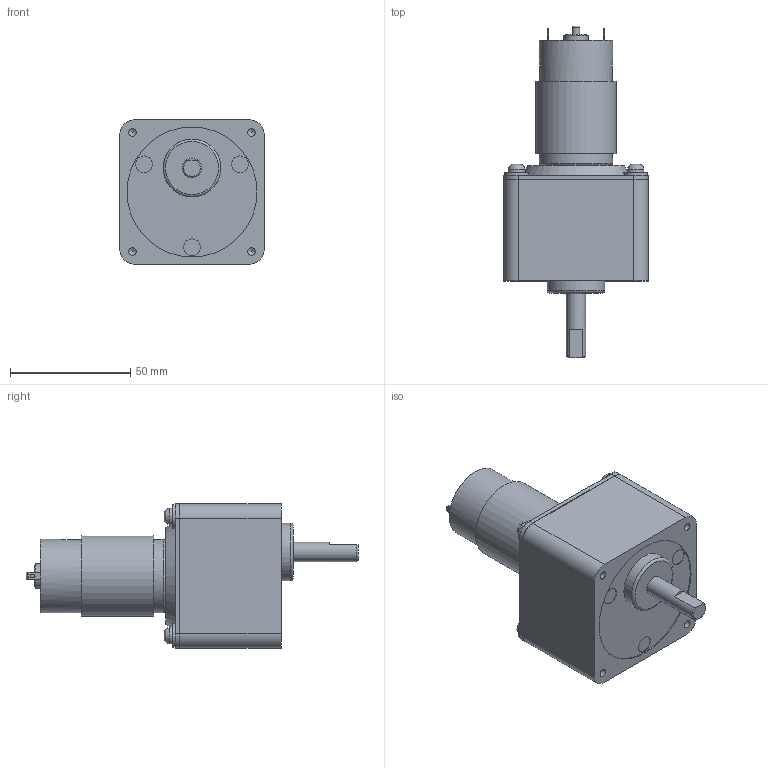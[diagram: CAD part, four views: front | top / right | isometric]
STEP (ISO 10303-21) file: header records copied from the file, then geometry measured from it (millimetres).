
FILE_DESCRIPTION((''),'2;1');
FILE_NAME('\\Servert1600\threepeace\2015homepage\STP\HP-Data_GM_3D_STEP\TP-3452A,B,C-CM-50～180-H00-12.24.stp','2016-11-11T11:47:27',('Administrator'),(''),'Autodesk Inventor 2010','Autodesk Inventor 2010','');
FILE_SCHEMA(('AUTOMOTIVE_DESIGN { 1 0 10303 214 1 1 1 1 }'));
Length unit declared in the file: millimetre
Products named in the file (3): TP-3452A,B,C-CM-50～180-H00-12; cm_4; TP-3452A,B,C
Assembly tree (2 placements, depth 2):
  TP-3452A,B,C-CM-50～180-H00-12
    cm_4
    TP-3452A,B,C
Bounding box: 60 x 138 x 60 mm (x, y, z)
Volume: 208530.1 mm3; surface area: 26890.6 mm2
Topology: 2 solids, 2 shells, 123 faces, 272 edges, 178 vertices
Faces by surface type: plane 60, cylinder 35, bspline 20, cone 4, torus 4
Full cylindrical faces by diameter (mm): 2.5 x1, 3.17 x2, 6.8 x4, 7 x3, 8 x1, 9.8 x4, 9.9 x1, 10 x1, 24 x1, 30.4 x1, 54 x1
Entity records: 3506 total; most frequent: CARTESIAN_POINT 933, DIRECTION 532, ORIENTED_EDGE 432, EDGE_CURVE 216, AXIS2_PLACEMENT_3D 210, EDGE_LOOP 195, VERTEX_POINT 165, FACE_OUTER_BOUND 123
